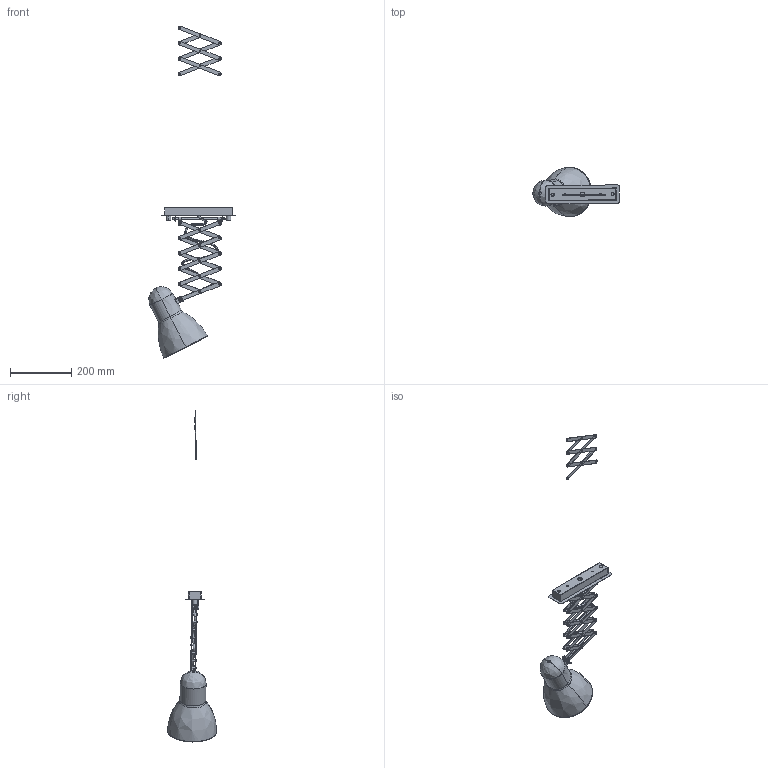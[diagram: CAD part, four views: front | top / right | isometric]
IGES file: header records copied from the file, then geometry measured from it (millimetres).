
Start section: SolidWorks IGES file using analytic representation for surfaces
Global section: file name: E:\_DESIGN\Harmony\1\Harmony I_6868.IGS; native system: SolidWorks 2016; preprocessor: SolidWorks 2016; author: Asia; date: 160707.105158; units: millimetre
Bounding box: 283.38 x 160.53 x 1082.95 mm (x, y, z)
Surface area: 449802.3 mm2 (no closed solid volume)
Topology: 0 solids, 0 shells, 1810 faces, 29572 edges, 29506 vertices
Faces by surface type: revolution 934, bspline 876
